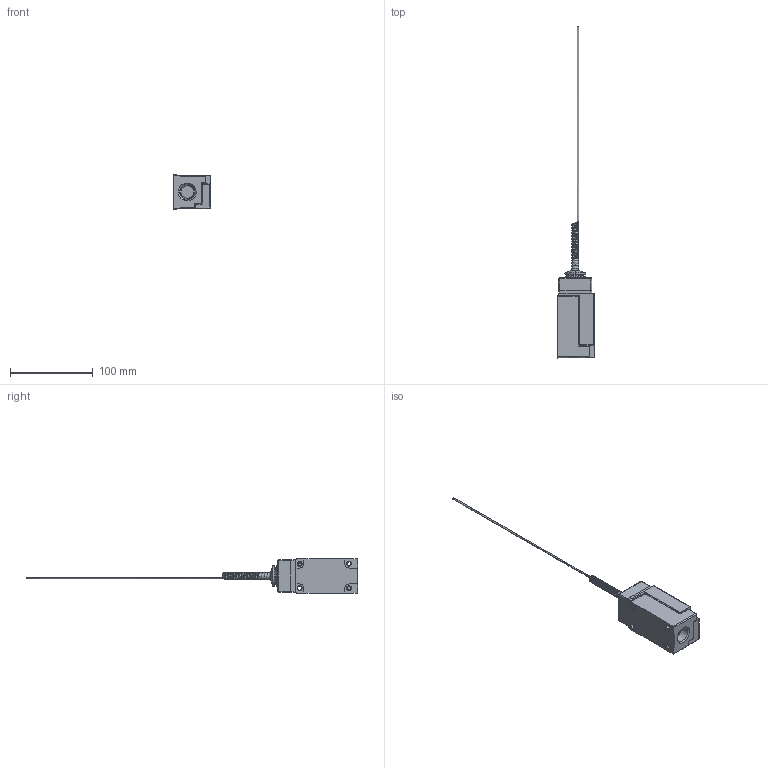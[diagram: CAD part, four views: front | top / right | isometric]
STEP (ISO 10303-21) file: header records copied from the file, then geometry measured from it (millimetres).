
FILE_DESCRIPTION((''),'2;1');
FILE_NAME('LSJ1A-7M','2012-12-06T',('E522935'),(''),'PRO/ENGINEER BY PARAMETRIC TECHNOLOGY CORPORATION, 2009460','PRO/ENGINEER BY PARAMETRIC TECHNOLOGY CORPORATION, 2009460','');
FILE_SCHEMA(('CONFIG_CONTROL_DESIGN'));
Length unit declared in the file: inch
Products named in the file (1): LSJ1A-7M
Bounding box: 44.32 x 400.48 x 41.15 mm (x, y, z)
Volume: 164954.3 mm3; surface area: 32205.3 mm2
Topology: 2 solids, 2 shells, 462 faces, 1143 edges, 700 vertices
Faces by surface type: plane 244, cylinder 128, cone 31, bspline 30, sphere 17, torus 8, revolution 2, extrusion 2
Entity records: 27858 total; most frequent: CARTESIAN_POINT 16998, ORIENTED_EDGE 2286, DIRECTION 2216, EDGE_CURVE 1143, AXIS2_PLACEMENT_3D 784, VERTEX_POINT 700, VECTOR 646, LINE 644
